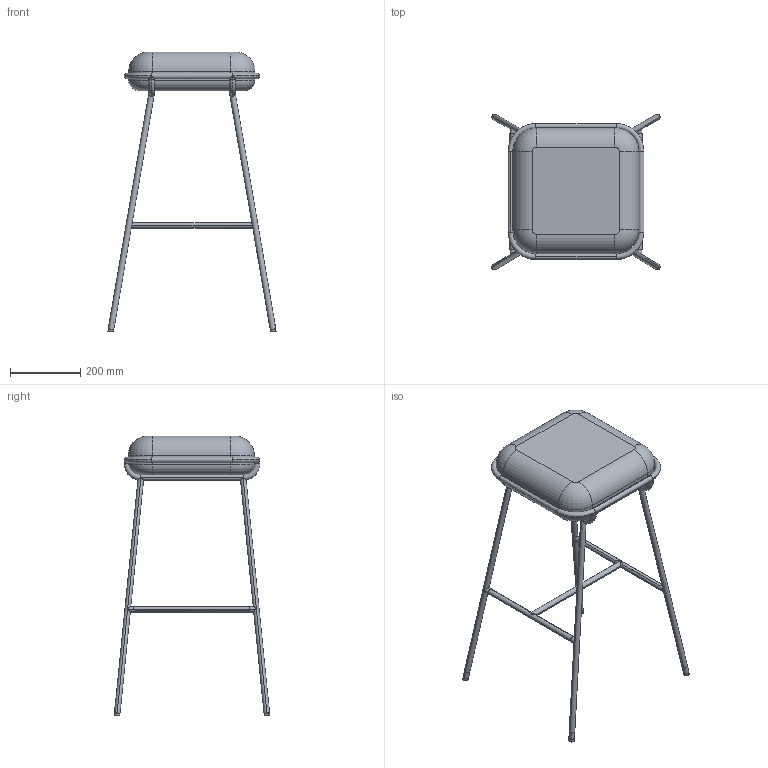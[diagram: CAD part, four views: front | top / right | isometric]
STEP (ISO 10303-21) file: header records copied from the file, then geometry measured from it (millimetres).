
FILE_DESCRIPTION (( 'STEP AP203' ), '1' );
FILE_NAME ('D001_wersja 5_defeature.STEP', '2019-10-08T13:11:44', ( '' ), ( '' ), 'SwSTEP 2.0', 'SolidWorks 2019', '' );
FILE_SCHEMA (( 'CONFIG_CONTROL_DESIGN' ));
Length unit declared in the file: millimetre
Products named in the file (9): Group1^D001_wersja 5_defeature; D001_310_RAMA_WERSJA_05_06_2019-1^D001_wersja 5_defeature; Group4^D001_wersja 5_defeature; D001_wersja 5_defeature; Group3^D001_wersja 5_defeature
Assembly tree (4 placements, depth 2):
  Group1^D001_wersja 5_defeature
  D001_310_RAMA_WERSJA_05_06_2019-1^D001_wersja 5_defeature
  D001_wersja 5_defeature
    Group1^D001_wersja 5_defeature
    Group3^D001_wersja 5_defeature
    Group4^D001_wersja 5_defeature
    D001_310_RAMA_WERSJA_05_06_2019-1^D001_wersja 5_defeature
  Group4^D001_wersja 5_defeature
  Group3^D001_wersja 5_defeature
Bounding box: 478.14 x 442.23 x 795.14 mm (x, y, z)
Volume: 13827865.6 mm3; surface area: 671717.9 mm2
Topology: 8 solids, 8 shells, 156 faces, 364 edges, 216 vertices
Faces by surface type: cylinder 80, plane 32, torus 32, bspline 12
Entity records: 6525 total; most frequent: CARTESIAN_POINT 2346, ORIENTED_EDGE 728, DIRECTION 716, EDGE_CURVE 364, AXIS2_PLACEMENT_3D 302, VERTEX_POINT 216, EDGE_LOOP 160, FACE_OUTER_BOUND 156
